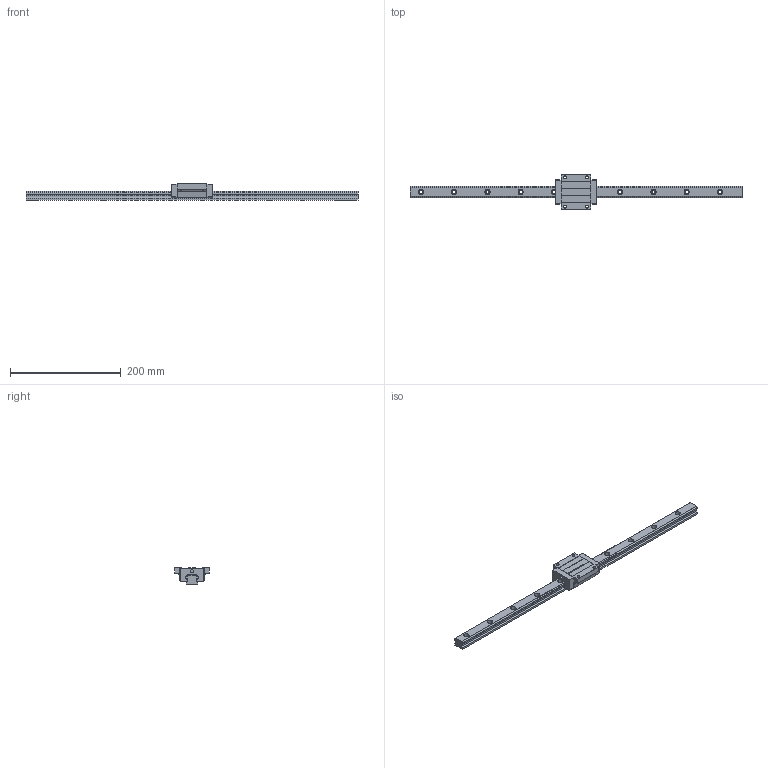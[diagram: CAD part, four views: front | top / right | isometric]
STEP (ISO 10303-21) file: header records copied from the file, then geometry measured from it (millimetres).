
FILE_DESCRIPTION(/* description */ (''),/* implementation_level */ '2;1');
FILE_NAME(/* name */ 'TRH20FN-XN.stp',/* time_stamp */ '2017-10-25T13:11:39+08:00',/* author */ (''),/* organization */ (''),/* preprocessor_version */ 'ST-DEVELOPER v11',/* originating_system */ 'SIEMENS UGS NX 6.0',/* authorisation */ '');
FILE_SCHEMA (('AUTOMOTIVE_DESIGN { 1 0 10303 214 1 1 1 1 }'));
Length unit declared in the file: millimetre
Products named in the file (1): TRH20FN-XN
Bounding box: 600 x 63 x 30 mm (x, y, z)
Volume: 241724.4 mm3; surface area: 66029 mm2
Topology: 2 solids, 2 shells, 142 faces, 371 edges, 236 vertices
Faces by surface type: plane 81, cylinder 57, sphere 4
Full cylindrical faces by diameter (mm): 5 x4, 6 x11, 9.5 x10
Entity records: 4213 total; most frequent: CARTESIAN_POINT 767, DIRECTION 722, ORIENTED_EDGE 656, EDGE_CURVE 328, AXIS2_PLACEMENT_3D 257, VERTEX_POINT 222, LINE 208, VECTOR 208
